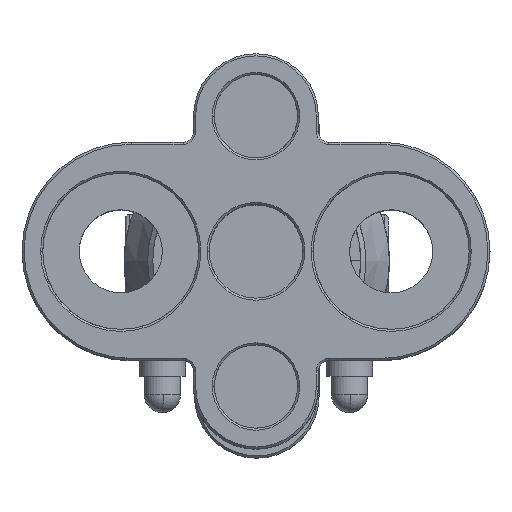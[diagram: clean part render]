
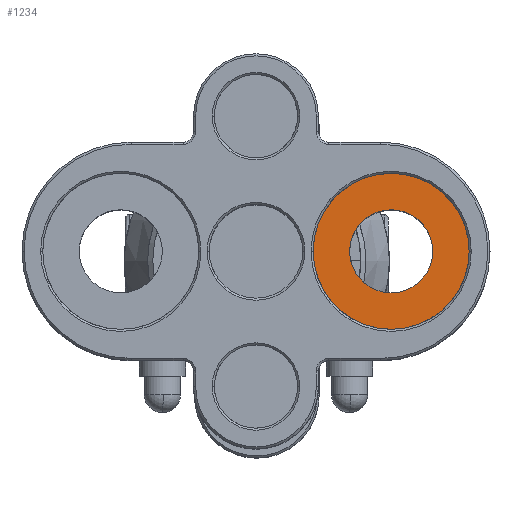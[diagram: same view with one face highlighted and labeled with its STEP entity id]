
A CAD part, top view. The second image highlights one B-rep face of the part: STEP entity #1234.
In plain terms, the highlighted planar face has unit normal (0, 0, 1).
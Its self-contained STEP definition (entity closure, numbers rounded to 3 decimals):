
#18 = CARTESIAN_POINT ( 'NONE',  ( 15.006, -3.469, -326.043 ) ) ;
#331 = AXIS2_PLACEMENT_3D ( 'NONE', #3910, #5230, #7182 ) ;
#715 = CARTESIAN_POINT ( 'NONE',  ( 13.019, 0., -326.043 ) ) ;
#760 = DIRECTION ( 'NONE',  ( 0., 0., 1. ) ) ;
#817 = FACE_OUTER_BOUND ( 'NONE', #2220, .T. ) ;
#1064 = AXIS2_PLACEMENT_3D ( 'NONE', #715, #760, #3996 ) ;
#1234 = ADVANCED_FACE ( 'NONE', ( #2658, #817 ), #7823, .F. ) ;
#1448 = VERTEX_POINT ( 'NONE', #2736 ) ;
#1746 = CIRCLE ( 'NONE', #1064, 7.5 ) ;
#1880 = ORIENTED_EDGE ( 'NONE', *, *, #6846, .T. ) ;
#2064 = VERTEX_POINT ( 'NONE', #18 ) ;
#2220 = EDGE_LOOP ( 'NONE', ( #1880, #5134 ) ) ;
#2570 = AXIS2_PLACEMENT_3D ( 'NONE', #7554, #7520, #2998 ) ;
#2658 = FACE_BOUND ( 'NONE', #2765, .T. ) ;
#2715 = CARTESIAN_POINT ( 'NONE',  ( 11.032, 3.469, -326.043 ) ) ;
#2736 = CARTESIAN_POINT ( 'NONE',  ( 9.291, 6.508, -326.044 ) ) ;
#2765 = EDGE_LOOP ( 'NONE', ( #5376, #7991 ) ) ;
#2958 = AXIS2_PLACEMENT_3D ( 'NONE', #3672, #5657, #5034 ) ;
#2965 = AXIS2_PLACEMENT_3D ( 'NONE', #5757, #3116, #8315 ) ;
#2998 = DIRECTION ( 'NONE',  ( 0.497, -0.868, 0. ) ) ;
#3116 = DIRECTION ( 'NONE',  ( 0., 0., 1. ) ) ;
#3672 = CARTESIAN_POINT ( 'NONE',  ( 13.019, 0., -326.043 ) ) ;
#3910 = CARTESIAN_POINT ( 'NONE',  ( 16.488, 1.987, -326.042 ) ) ;
#3996 = DIRECTION ( 'NONE',  ( 0.497, -0.868, 0. ) ) ;
#4000 = EDGE_CURVE ( 'NONE', #2064, #4100, #5275, .T. ) ;
#4100 = VERTEX_POINT ( 'NONE', #2715 ) ;
#4394 = VERTEX_POINT ( 'NONE', #8324 ) ;
#4638 = EDGE_CURVE ( 'NONE', #4100, #2064, #5828, .T. ) ;
#5034 = DIRECTION ( 'NONE',  ( 0.497, -0.868, 0. ) ) ;
#5134 = ORIENTED_EDGE ( 'NONE', *, *, #7024, .T. ) ;
#5230 = DIRECTION ( 'NONE',  ( 0., 0., -1. ) ) ;
#5275 = CIRCLE ( 'NONE', #2958, 3.998 ) ;
#5376 = ORIENTED_EDGE ( 'NONE', *, *, #4000, .F. ) ;
#5657 = DIRECTION ( 'NONE',  ( 0., 0., 1. ) ) ;
#5757 = CARTESIAN_POINT ( 'NONE',  ( 13.019, 0., -326.043 ) ) ;
#5828 = CIRCLE ( 'NONE', #2965, 3.998 ) ;
#6846 = EDGE_CURVE ( 'NONE', #4394, #1448, #1746, .T. ) ;
#7024 = EDGE_CURVE ( 'NONE', #1448, #4394, #7342, .T. ) ;
#7182 = DIRECTION ( 'NONE',  ( -0.497, 0.868, 0. ) ) ;
#7342 = CIRCLE ( 'NONE', #2570, 7.5 ) ;
#7520 = DIRECTION ( 'NONE',  ( 0., 0., 1. ) ) ;
#7554 = CARTESIAN_POINT ( 'NONE',  ( 13.019, 0., -326.043 ) ) ;
#7823 = PLANE ( 'NONE',  #331 ) ;
#7991 = ORIENTED_EDGE ( 'NONE', *, *, #4638, .F. ) ;
#8315 = DIRECTION ( 'NONE',  ( 0.497, -0.868, 0. ) ) ;
#8324 = CARTESIAN_POINT ( 'NONE',  ( 16.747, -6.508, -326.042 ) ) ;
